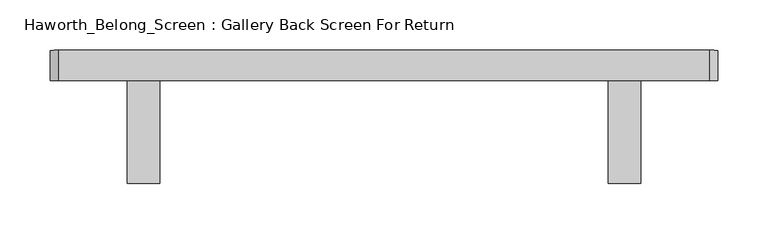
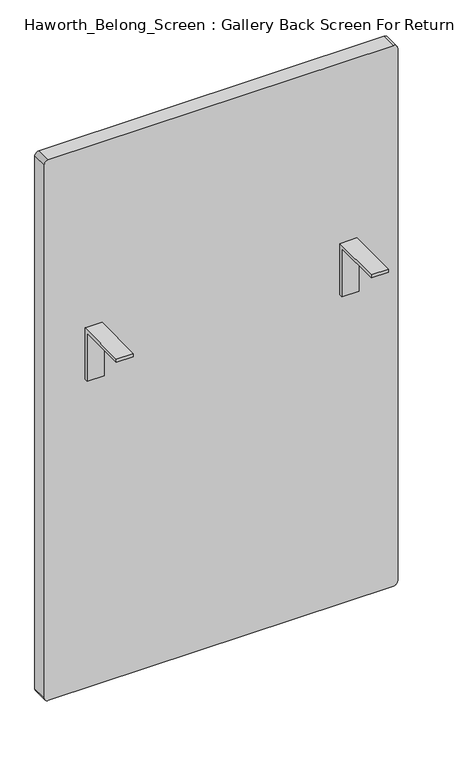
"""IFC4 building model written with IfcOpenShell, lengths in millimetres: furniture geometry, Haworth_Belong_Screen : Gallery Back Screen For Return."""

from ifc_helpers import new_model, si_unit, point, frame, frame_2d, origin, place, context, project, spatial, polyline, circle_curve, trimmed, segment, composite_curve, outline, extrude, source, transform, mapped, element, save


def haworth_belong_screen_gallery_back_screen_for_return_62437573(model_context):
    return source(origin(), model_context, "Body", "SweptSolid", [
        extrude(outline(polyline([(-19.05, 731.8375), (-19.05, 630.2375), (-25.4, 630.2375), (-25.4, 725.4875), (-120.65, 725.4875), (-120.65, 731.8375), (-19.05, 731.8375)])), frame((-286.6645436, 0.0, 0.0), z_axis=(1.0, 0.0, 0.0), x_axis=(0.0, 1.0, 0.0)), (0.0, 0.0, 1.0), 31.75),
        extrude(outline(polyline([(-19.05, 731.8375), (-19.05, 630.2375), (-25.4, 630.2375), (-25.4, 725.4875), (-120.65, 725.4875), (-120.65, 731.8375), (-19.05, 731.8375)])), frame((189.5854564, 0.0, 0.0), z_axis=(1.0, 0.0, 0.0), x_axis=(0.0, 1.0, 0.0)), (0.0, 0.0, 1.0), 31.75),
        extrude(outline(composite_curve([segment(polyline([(1087.4375, 289.5979564), (1087.4375, -354.9270436)]), True, "CONTINUOUS"), segment(trimmed(circle_curve(frame_2d((1079.5, -354.9270436)), 7.9375), [point((1087.4375, -354.9270436))], [point((1079.5, -362.8645436))], False, "CARTESIAN"), True, "CONTINUOUS"), segment(polyline([(1079.5, -362.8645436), (28.575, -362.8645436)]), True, "CONTINUOUS"), segment(trimmed(circle_curve(frame_2d((28.575, -354.9270436)), 7.9375), [point((28.575, -362.8645436))], [point((20.6375, -354.9270436))], False, "CARTESIAN"), True, "CONTINUOUS"), segment(polyline([(20.6375, -354.9270436), (20.6375, 289.5979564)]), True, "CONTINUOUS"), segment(trimmed(circle_curve(frame_2d((28.575, 289.5979564)), 7.9375), [point((20.6375, 289.5979564))], [point((28.575, 297.5354564))], False, "CARTESIAN"), True, "CONTINUOUS"), segment(polyline([(28.575, 297.5354564), (1079.5, 297.5354564)]), True, "CONTINUOUS"), segment(trimmed(circle_curve(frame_2d((1079.5, 289.5979564)), 7.9375), [point((1079.5, 297.5354564))], [point((1087.4375, 289.5979564))], False, "CARTESIAN"), True, "CONTINUOUS")], self_intersect=False)), frame((0.0, -19.05, 0.0), z_axis=(0.0, 1.0, 0.0), x_axis=(0.0, 0.0, 1.0)), (0.0, 0.0, 1.0), 30.1625),
    ])


if __name__ == "__main__":
    model = new_model("IFC4")
    model_context = context("Model", 3, world=origin())
    ifc_project = project(units=[si_unit("LENGTHUNIT", "METRE", prefix="MILLI")], contexts=[model_context])
    site = spatial("IfcSite", under=ifc_project)
    building = spatial("IfcBuilding", under=site)
    placement = place(None, origin())
    haworth_belong_screen_gallery_back_screen_for_return_shape = haworth_belong_screen_gallery_back_screen_for_return_62437573(model_context)
    element("IfcFurniture", 1, ObjectType="Haworth_Belong_Screen : Gallery Back Screen For Return", at=placement, inside=building, context=model_context, shape_type="MappedRepresentation", body=[
        mapped(haworth_belong_screen_gallery_back_screen_for_return_shape, transform((0.0, 0.0, 0.0), x_axis=(1.0, 0.0, 0.0), y_axis=(0.0, 1.0, 0.0), z_axis=(0.0, 0.0, 1.0))),
    ])
    save(model, "model.ifc")
